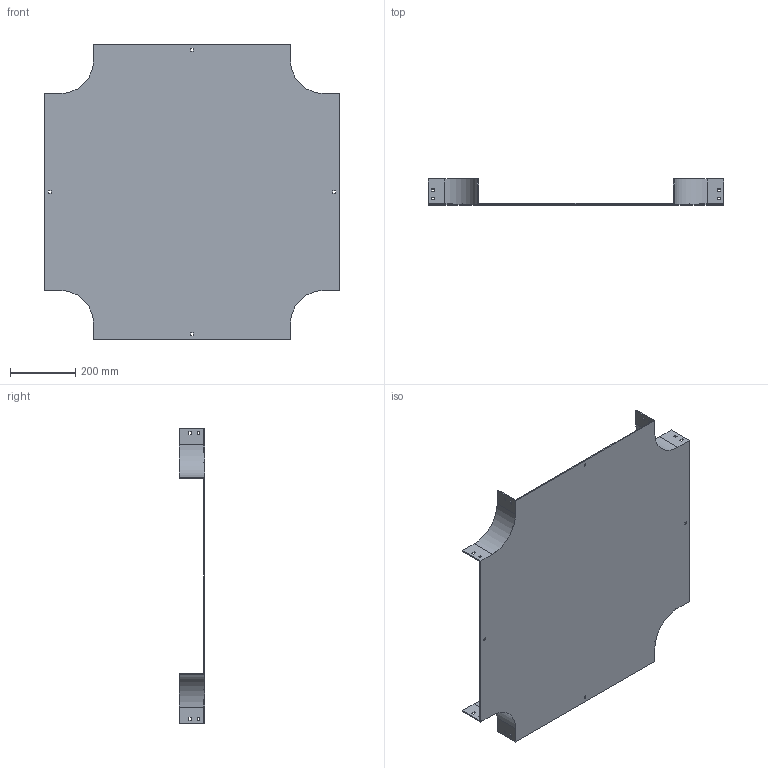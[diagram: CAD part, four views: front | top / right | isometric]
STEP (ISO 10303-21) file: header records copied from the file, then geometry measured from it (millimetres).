
FILE_DESCRIPTION (( 'STEP AP214' ), '1' );
FILE_NAME ('17B1C600.step', '2025-02-21T09:58:29', ( '' ), ( '' ), 'SwSTEP 2.0', 'SolidWorks 2023', '' );
FILE_SCHEMA (( 'AUTOMOTIVE_DESIGN' ));
Length unit declared in the file: millimetre
Products named in the file (1): 17B1C600
Bounding box: 904 x 79 x 904 mm (x, y, z)
Volume: 2845200 mm3; surface area: 1642335.7 mm2
Topology: 1 solids, 1 shells, 114 faces, 336 edges, 224 vertices
Faces by surface type: plane 106, cylinder 8
Entity records: 3839 total; most frequent: CARTESIAN_POINT 675, ORIENTED_EDGE 672, DIRECTION 582, EDGE_CURVE 336, LINE 320, VECTOR 320, VERTEX_POINT 224, EDGE_LOOP 154
